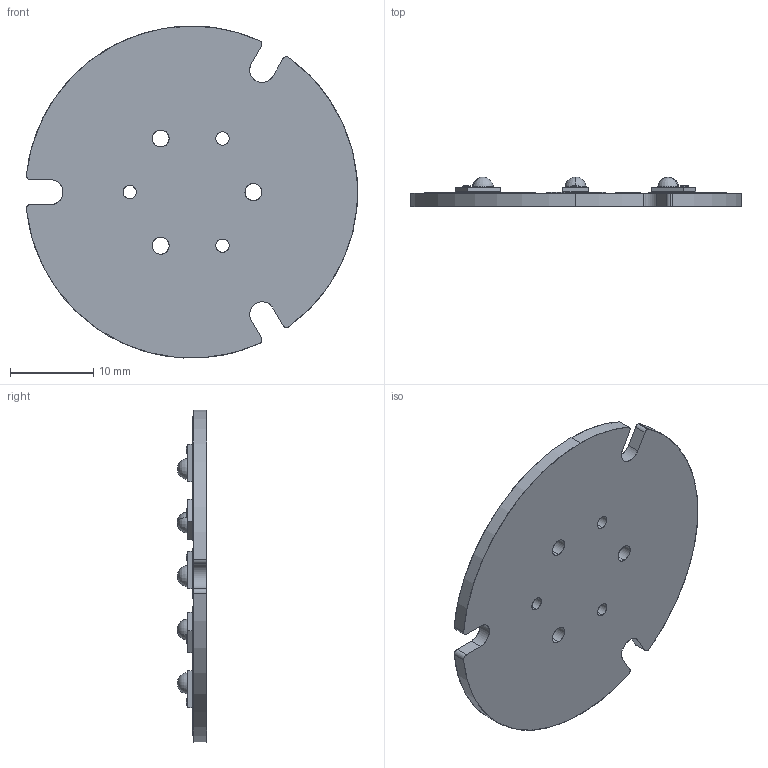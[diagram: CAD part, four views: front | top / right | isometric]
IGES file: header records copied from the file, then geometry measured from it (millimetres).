
Start section: SolidWorks IGES file using analytic representation for surfaces
Global section: file name: E:\Fast Tracks\Non-Production\Quadica\SP Assemblies\SP-02\SP-02.IGS; native system: SolidWorks 2014; preprocessor: SolidWorks 2014; author: MainServer; date: 140727.134126; units: inch
Bounding box: 39.9 x 3.55 x 39.98 mm (x, y, z)
Surface area: 3019.6 mm2 (no closed solid volume)
Topology: 0 solids, 0 shells, 1883 faces, 15355 edges, 15327 vertices
Faces by surface type: bspline 1406, revolution 477
